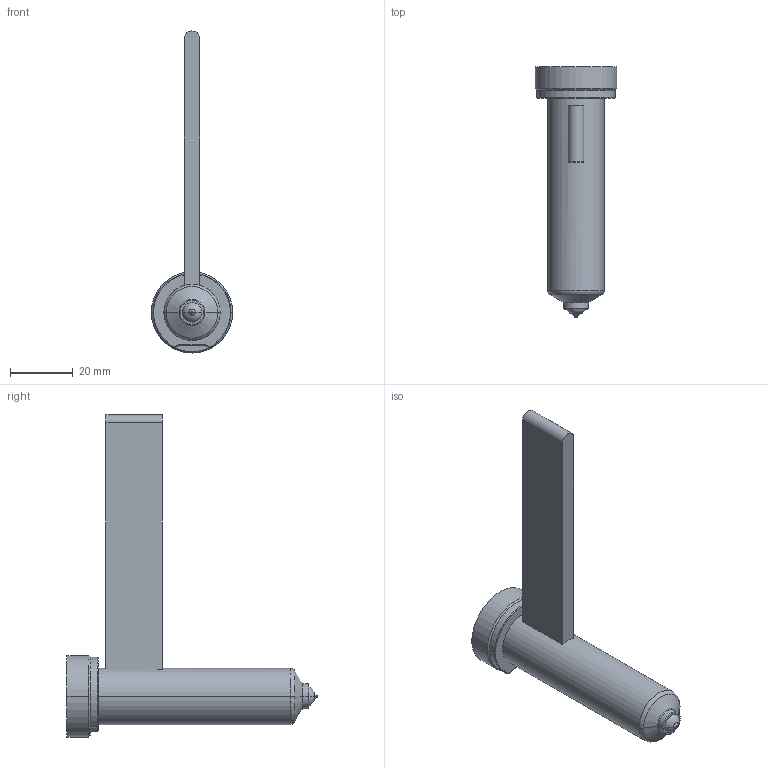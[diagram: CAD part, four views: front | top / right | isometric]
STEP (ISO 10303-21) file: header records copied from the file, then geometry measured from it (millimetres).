
FILE_DESCRIPTION((''),'2;1');
FILE_NAME('EO04_PG-BL_STD_070_COT','2024-02-19T10:56:40',('sundharh'),(''),'CREO PARAMETRIC BY PTC INC, 2023154','CREO PARAMETRIC BY PTC INC, 2023154','');
FILE_SCHEMA(('CONFIG_CONTROL_DESIGN'));
Length unit declared in the file: millimetre
Products named in the file (1): EO04_PG-BL_STD_070_COT
Bounding box: 26 x 80 x 103 mm (x, y, z)
Volume: 28831 mm3; surface area: 9149.7 mm2
Topology: 1 solids, 1 shells, 40 faces, 85 edges, 50 vertices
Faces by surface type: cylinder 13, plane 10, torus 9, cone 6, sphere 2
Entity records: 1195 total; most frequent: CARTESIAN_POINT 265, DIRECTION 209, ORIENTED_EDGE 170, AXIS2_PLACEMENT_3D 90, EDGE_CURVE 85, VERTEX_POINT 50, CIRCLE 50, EDGE_LOOP 43
